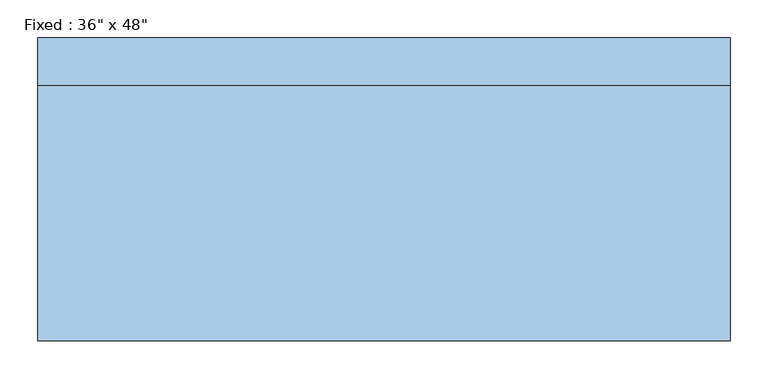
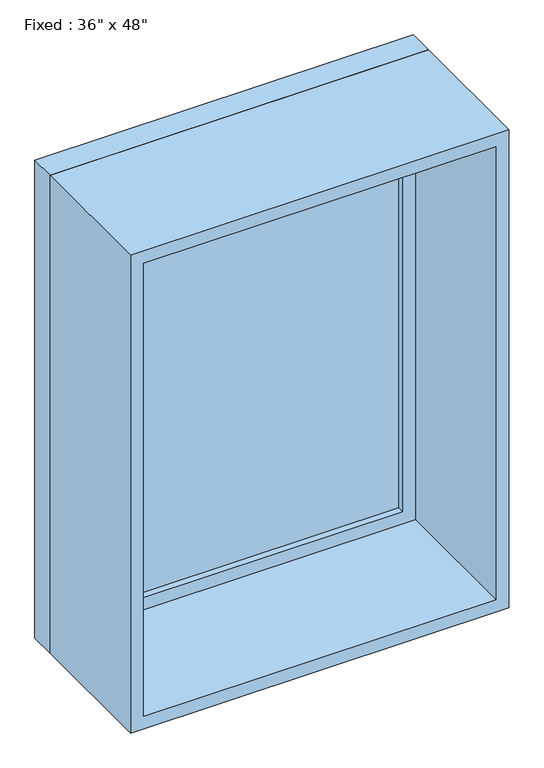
"""IFC4 building model written with IfcOpenShell, lengths in millimetres: window geometry."""

from ifc_helpers import new_model, si_unit, frame, origin, place, context, project, spatial, polyline, outline, extrude, source, transform, mapped, element, save


def window_6be7d9fc(model_context):
    return source(origin(), model_context, "Body", "SweptSolid", [
        extrude(outline(polyline([(355.6, 152.375), (-431.8, 152.375), (-431.8, 165.075), (355.6, 165.075), (355.6, 152.375)])), frame((0.0, 0.0, 977.9), z_axis=(0.0, 0.0, 1.0), x_axis=(1.0, 0.0, 0.0)), (0.0, 0.0, 1.0), 1092.2),
        extrude(outline(polyline([(2114.55, -476.25), (933.45, -476.25), (933.45, 400.05), (2114.55, 400.05), (2114.55, -476.25)]), holes=[polyline([(2070.1, -431.8), (2070.1, 355.6), (977.9, 355.6), (977.9, -431.8), (2070.1, -431.8)])]), frame((0.0, 136.5, 0.0), z_axis=(0.0, 1.0, 0.0), x_axis=(0.0, 0.0, 1.0)), (0.0, 0.0, 1.0), 44.45),
        extrude(outline(polyline([(2133.6, -495.3), (914.4, -495.3), (914.4, 419.1), (2133.6, 419.1), (2133.6, -495.3)]), holes=[polyline([(2101.85, -463.55), (2101.85, 387.35), (946.15, 387.35), (946.15, -463.55), (2101.85, -463.55)])]), frame((0.0, -200.0, 0.0), z_axis=(0.0, 1.0, 0.0), x_axis=(0.0, 0.0, 1.0)), (0.0, 0.0, 1.0), 336.5),
        extrude(outline(polyline([(2133.6, 419.1), (2133.6, -495.3), (914.4, -495.3), (914.4, 419.1), (2133.6, 419.1)]), holes=[polyline([(2114.55, 400.05), (933.45, 400.05), (933.45, -476.25), (2114.55, -476.25), (2114.55, 400.05)])]), frame((0.0, 136.5, 0.0), z_axis=(0.0, 1.0, 0.0), x_axis=(0.0, 0.0, 1.0)), (0.0, 0.0, 1.0), 63.5),
    ])


if __name__ == "__main__":
    model = new_model("IFC4")
    model_context = context("Model", 3, world=origin())
    ifc_project = project(units=[si_unit("LENGTHUNIT", "METRE", prefix="MILLI")], contexts=[model_context])
    site = spatial("IfcSite", under=ifc_project)
    building = spatial("IfcBuilding", under=site)
    placement = place(None, origin())
    window_shape = window_6be7d9fc(model_context)
    element("IfcWindow", 1, ObjectType="Fixed : 36\" x 48\"", at=placement, inside=building, context=model_context, shape_type="MappedRepresentation", body=[
        mapped(window_shape, transform((0.0, 0.0, 0.0), x_axis=(1.0, 0.0, 0.0), y_axis=(0.0, 1.0, 0.0), z_axis=(0.0, 0.0, 1.0))),
    ])
    save(model, "model.ifc")
